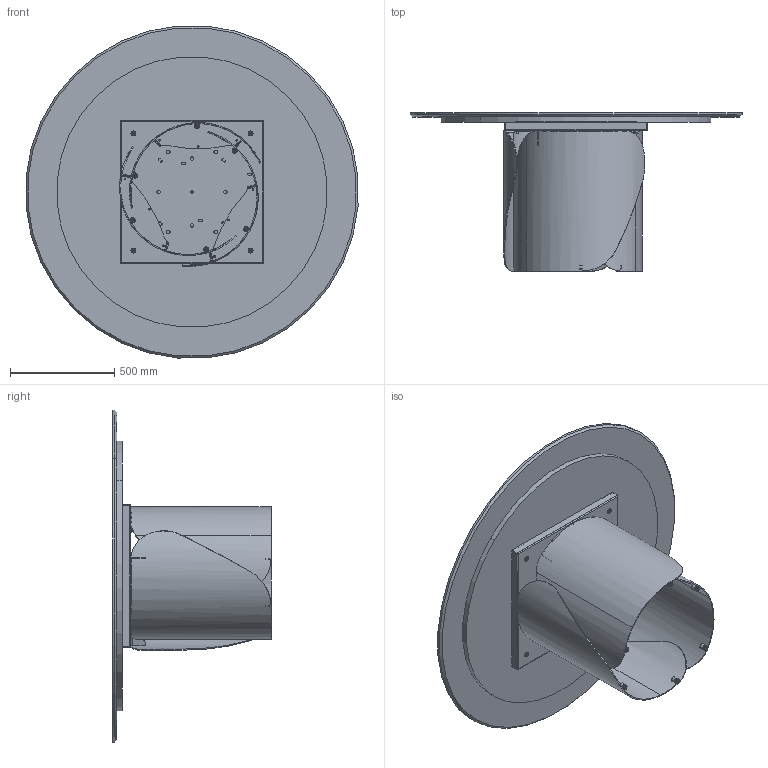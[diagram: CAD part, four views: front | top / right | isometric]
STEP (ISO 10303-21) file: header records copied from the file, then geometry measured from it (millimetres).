
FILE_DESCRIPTION (( 'STEP AP203' ), '1' );
FILE_NAME ('ON08M.STEP', '2024-08-06T13:31:27', ( '' ), ( '' ), 'SwSTEP 2.0', 'SolidWorks 2022', '' );
FILE_SCHEMA (( 'CONFIG_CONTROL_DESIGN' ));
Length unit declared in the file: millimetre
Products named in the file (17): M8xXXmm_M8x20mm; M0XMXX-00-Piani Rotondi in marmo 2024_1600; OND000000_02-00-CILINDRO DI FISSAGGIO Ø25X17 M8; OND000000_01-00-PIASTRA SUPERIORE BASE ONDA; ON08M; TTAV0801 TELAIO UNIVERSALE TONDO-PIASTRINA; rondella M8_8X24; OND000000-03-ONDA BASE GREZZA; M0X-00- D. piani marmo_D.1600; PIEDINO PER ONDA; COLLO TELAIO UNIVERSALE TTAV0801 CON FERRAMENTA_MTG TOP LEGNO-MARMO-KING; M8xXXmm_M8x55mm; TRU0000X-00-SOTTO PIANO D.XXXXmm_TRU00001 d.130cm; OND000000_03-00-LAMIERA CURVATA PRINCIPALE_OND00000X-00-ONDA BASE GREZZA PROTOTIPO; COLLO BASE ONDA SINGOLA CON FERRAMENTA; TTAV0801-02-TELAIO UNIVERSALE TONDO-VASSOIO; TTAV0801-02-TELAIO UNIVERSALE TONDO
Assembly tree (52 placements, depth 4):
  ON08M
    COLLO TELAIO UNIVERSALE TTAV0801 CON FERRAMENTA_MTG TOP LEGNO-MARMO-KING
      TTAV0801-02-TELAIO UNIVERSALE TONDO
        TTAV0801-02-TELAIO UNIVERSALE TONDO-VASSOIO
        TTAV0801 TELAIO UNIVERSALE TONDO-PIASTRINA  x4
      rondella M8_8X24  x4
      M8xXXmm_M8x55mm  x4
    COLLO BASE ONDA SINGOLA CON FERRAMENTA  x3
      OND000000-03-ONDA BASE GREZZA
        OND000000_03-00-LAMIERA CURVATA PRINCIPALE_OND00000X-00-ONDA BASE GREZZA PROTOTIPO
        OND000000_01-00-PIASTRA SUPERIORE BASE ONDA
        OND000000_02-00-CILINDRO DI FISSAGGIO Ø25X17 M8  x2
      PIEDINO PER ONDA
    rondella M8_8X24  x12
    M8xXXmm_M8x20mm  x12
    M0XMXX-00-Piani Rotondi in marmo 2024_1600
      M0X-00- D. piani marmo_D.1600
      TRU0000X-00-SOTTO PIANO D.XXXXmm_TRU00001 d.130cm
Bounding box: 1593.91 x 761 x 1593.91 mm (x, y, z)
Volume: 83905639.9 mm3; surface area: 11490416.7 mm2
Topology: 63 solids, 63 shells, 1715 faces, 4041 edges, 2479 vertices
Faces by surface type: plane 676, cylinder 573, torus 216, cone 190, bspline 60
Entity records: 21089 total; most frequent: CARTESIAN_POINT 4813, DIRECTION 2908, ORIENTED_EDGE 2752, EDGE_CURVE 1376, AXIS2_PLACEMENT_3D 1072, VERTEX_POINT 881, VECTOR 764, LINE 764
